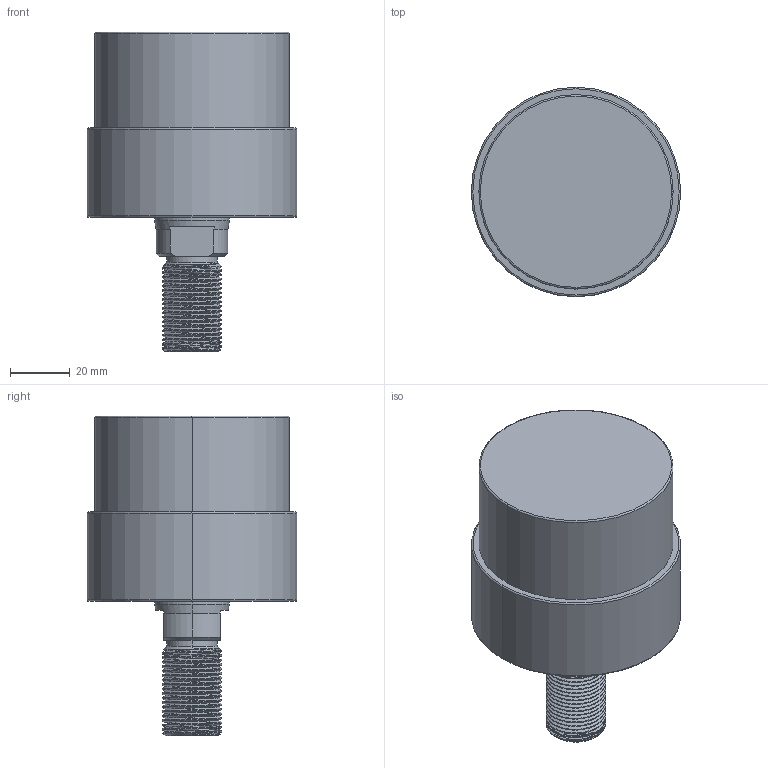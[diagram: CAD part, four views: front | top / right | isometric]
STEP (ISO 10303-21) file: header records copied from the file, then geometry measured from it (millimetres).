
FILE_DESCRIPTION (( 'STEP AP203' ), '1' );
FILE_NAME ('CLLU-065GT-(01-014).STEP', '2020-01-16T00:58:06', ( '' ), ( '' ), 'SwSTEP 2.0', 'SolidWorks 2015', '' );
FILE_SCHEMA (( 'CONFIG_CONTROL_DESIGN' ));
Length unit declared in the file: millimetre
Products named in the file (1): CLLU-065GT-(01-014)
Bounding box: 70 x 70 x 107 mm (x, y, z)
Volume: 234515.5 mm3; surface area: 26065.7 mm2
Topology: 1 solids, 1 shells, 107 faces, 270 edges, 166 vertices
Faces by surface type: cylinder 61, cone 26, plane 12, torus 6, bspline 2
Entity records: 5357 total; most frequent: CARTESIAN_POINT 2956, ORIENTED_EDGE 524, DIRECTION 461, EDGE_CURVE 262, AXIS2_PLACEMENT_3D 184, VERTEX_POINT 166, EDGE_LOOP 116, ADVANCED_FACE 107
